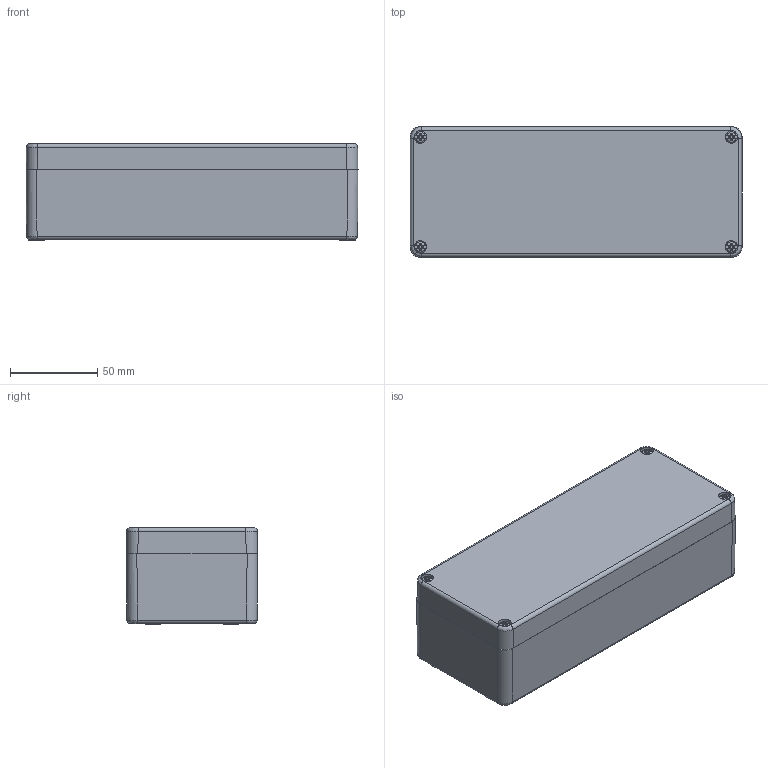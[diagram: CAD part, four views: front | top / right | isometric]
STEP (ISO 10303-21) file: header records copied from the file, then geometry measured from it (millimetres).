
FILE_DESCRIPTION(/* description */ (''),/* implementation_level */ '2;1');
FILE_NAME(/* name */ 'E:\Eng\Customer Service\Drawings\working on 1590ZGRP\STEP\1590ZGRP131\1590ZGRP131.iam.stp',/* time_stamp */ '2016-02-02T08:21:02-05:00',/* author */ ('kbond'),/* organization */ (''),/* preprocessor_version */ 'ST-DEVELOPER v16.1',/* originating_system */ 'Autodesk Inventor 2016',/* authorisation */ '');
FILE_SCHEMA (('AUTOMOTIVE_DESIGN { 1 0 10303 214 3 1 1 }'));
Length unit declared in the file: millimetre
Products named in the file (6): 1590ZGRP131 box; 1590ZGRP131 lid; 1590ZGRP131 Gasket; 1590ZGRP131PL; (screw M4-0.7X 25mm PN); 1590ZGRP131
Assembly tree (8 placements, depth 2):
  1590ZGRP131
    1590ZGRP131 box
    1590ZGRP131 lid
    1590ZGRP131 Gasket
    1590ZGRP131PL
    (screw M4-0.7X 25mm PN)  x4
Bounding box: 190.3 x 75.2 x 55.5 mm (x, y, z)
Volume: 252639.8 mm3; surface area: 145381.5 mm2
Topology: 8 solids, 8 shells, 422 faces, 1068 edges, 690 vertices
Faces by surface type: plane 220, cylinder 78, cone 76, torus 32, bspline 8, sphere 8
Full cylindrical faces by diameter (mm): 3.242 x6, 3.48 x4, 3.5 x4, 3.75 x8, 3.85 x4, 4.5 x4, 4.6 x4, 5 x2, 6.9 x4, 7.2 x4, 9 x4
Entity records: 8843 total; most frequent: CARTESIAN_POINT 1769, DIRECTION 1546, ORIENTED_EDGE 1306, EDGE_CURVE 653, AXIS2_PLACEMENT_3D 612, VERTEX_POINT 447, EDGE_LOOP 404, LINE 322
